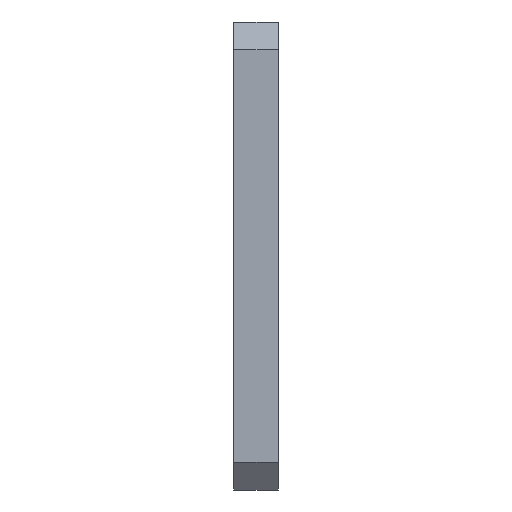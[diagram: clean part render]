
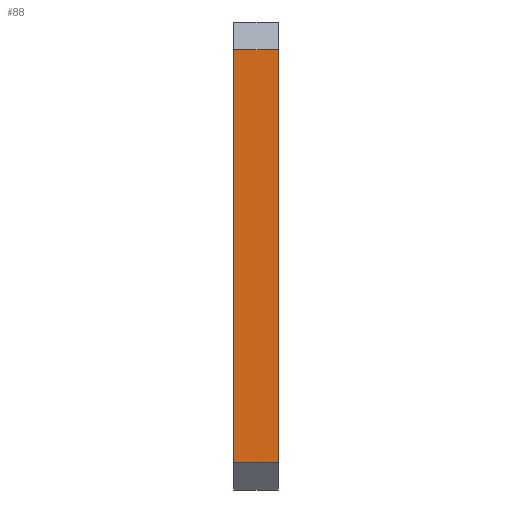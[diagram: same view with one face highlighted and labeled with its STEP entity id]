
A CAD part, left-side view. The second image highlights one B-rep face of the part: STEP entity #88.
In plain terms, the highlighted planar face has unit normal (-1, 0, 0).
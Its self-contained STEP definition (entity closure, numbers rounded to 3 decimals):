
#32 = VERTEX_POINT('',#33);
#33 = CARTESIAN_POINT('',(0.,-4.,37.));
#39 = EDGE_CURVE('',#40,#32,#42,.T.);
#40 = VERTEX_POINT('',#41);
#41 = CARTESIAN_POINT('',(0.,0.,37.));
#42 = LINE('',#43,#44);
#43 = CARTESIAN_POINT('',(0.,0.,37.));
#44 = VECTOR('',#45,1.);
#45 = DIRECTION('',(0.,-1.,0.));
#88 = ADVANCED_FACE('',(#89),#114,.F.);
#89 = FACE_BOUND('',#90,.F.);
#90 = EDGE_LOOP('',(#91,#92,#100,#108));
#91 = ORIENTED_EDGE('',*,*,#39,.T.);
#92 = ORIENTED_EDGE('',*,*,#93,.T.);
#93 = EDGE_CURVE('',#32,#94,#96,.T.);
#94 = VERTEX_POINT('',#95);
#95 = CARTESIAN_POINT('',(0.,-4.,0.));
#96 = LINE('',#97,#98);
#97 = CARTESIAN_POINT('',(0.,-4.,37.));
#98 = VECTOR('',#99,1.);
#99 = DIRECTION('',(0.,0.,-1.));
#100 = ORIENTED_EDGE('',*,*,#101,.F.);
#101 = EDGE_CURVE('',#102,#94,#104,.T.);
#102 = VERTEX_POINT('',#103);
#103 = CARTESIAN_POINT('',(0.,0.,0.));
#104 = LINE('',#105,#106);
#105 = CARTESIAN_POINT('',(0.,0.,0.));
#106 = VECTOR('',#107,1.);
#107 = DIRECTION('',(0.,-1.,0.));
#108 = ORIENTED_EDGE('',*,*,#109,.F.);
#109 = EDGE_CURVE('',#40,#102,#110,.T.);
#110 = LINE('',#111,#112);
#111 = CARTESIAN_POINT('',(0.,0.,37.));
#112 = VECTOR('',#113,1.);
#113 = DIRECTION('',(0.,0.,-1.));
#114 = PLANE('',#115);
#115 = AXIS2_PLACEMENT_3D('',#116,#117,#118);
#116 = CARTESIAN_POINT('',(0.,0.,37.));
#117 = DIRECTION('',(1.,0.,0.));
#118 = DIRECTION('',(0.,0.,-1.));
